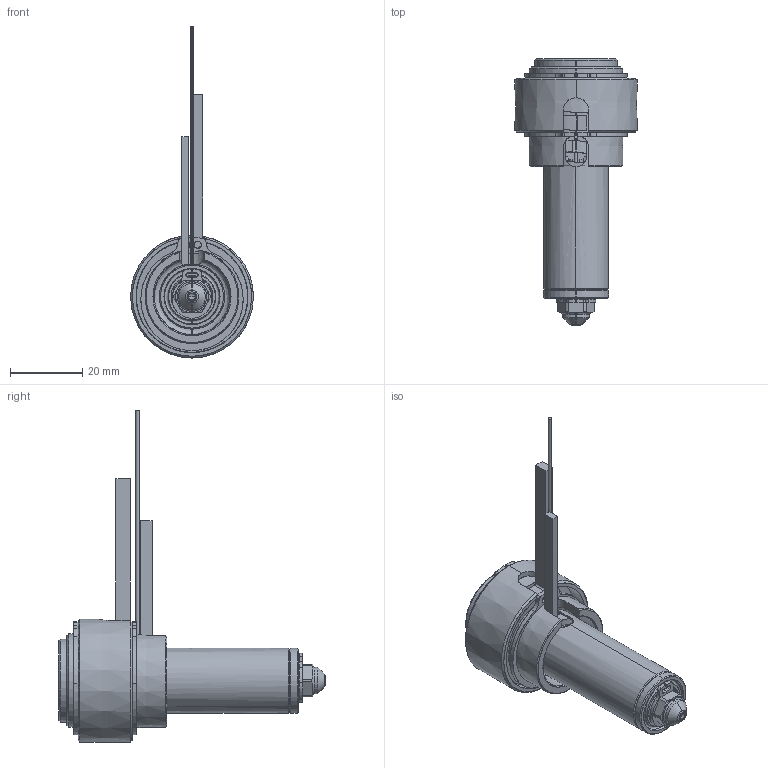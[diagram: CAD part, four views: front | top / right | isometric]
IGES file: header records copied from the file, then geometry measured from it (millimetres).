
Start section: SolidWorks IGES file using analytic representation for surfaces
Global section: file name: C:\Documents and Settings\ws-20\Desktop\TEM\UGER2501-M-A-0 [Øb-1.90 ØC-4.0].IGS; native system: SolidWorks 2012; preprocessor: SolidWorks 2012; author: ws-20; date: 120405.101556; units: millimetre
Bounding box: 34 x 73.9 x 91.9 mm (x, y, z)
Surface area: 19054.9 mm2 (no closed solid volume)
Topology: 0 solids, 0 shells, 197 faces, 2527 edges, 2525 vertices
Faces by surface type: revolution 125, bspline 72
